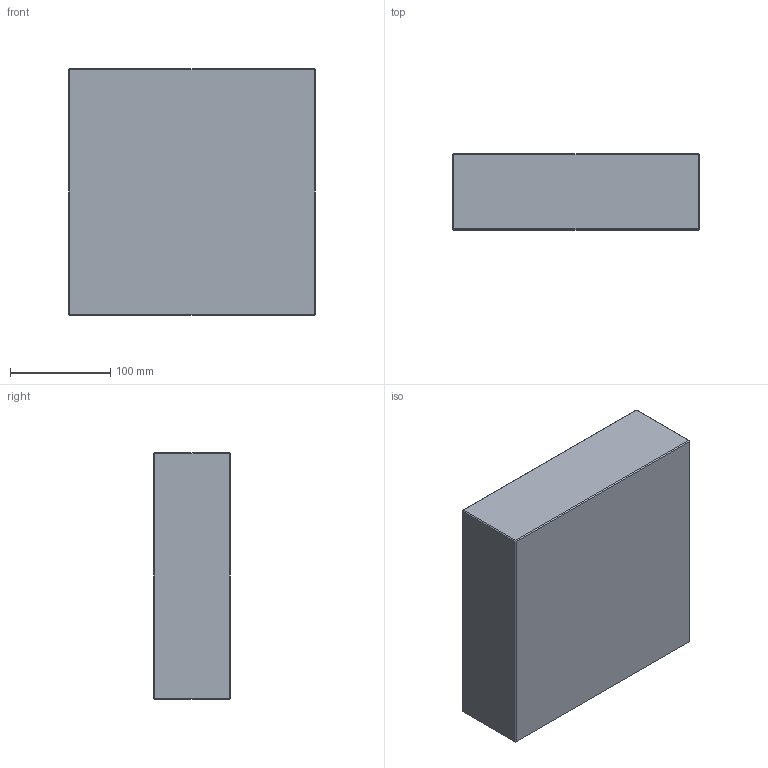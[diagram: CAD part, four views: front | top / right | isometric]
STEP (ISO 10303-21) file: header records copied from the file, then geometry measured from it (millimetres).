
FILE_DESCRIPTION (( 'STEP AP214' ), '1' );
FILE_NAME ('PC-P-246x246x76.STEP', '2020-04-01T08:27:09', ( 'August' ), ( '' ), 'SwSTEP 2.0', 'SolidWorks 2018', '' );
FILE_SCHEMA (( 'AUTOMOTIVE_DESIGN' ));
Length unit declared in the file: millimetre
Products named in the file (1): PC-P-246x246x76
Bounding box: 246 x 76 x 246 mm (x, y, z)
Volume: 4598085.3 mm3; surface area: 194482.1 mm2
Topology: 1 solids, 1 shells, 26 faces, 48 edges, 24 vertices
Faces by surface type: plane 26
Entity records: 634 total; most frequent: DIRECTION 102, CARTESIAN_POINT 99, ORIENTED_EDGE 96, VECTOR 48, LINE 48, EDGE_CURVE 48, AXIS2_PLACEMENT_3D 27, PLANE 26
